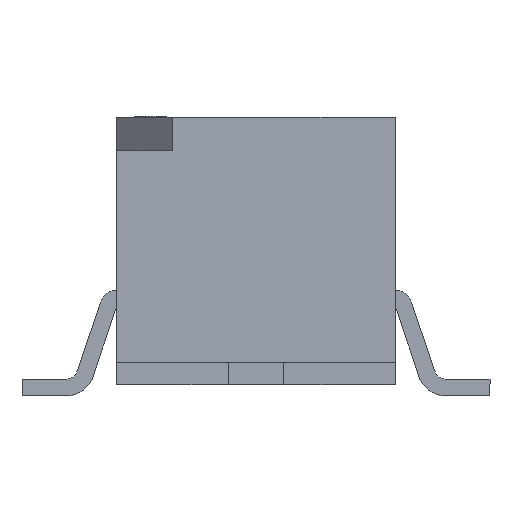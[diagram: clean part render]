
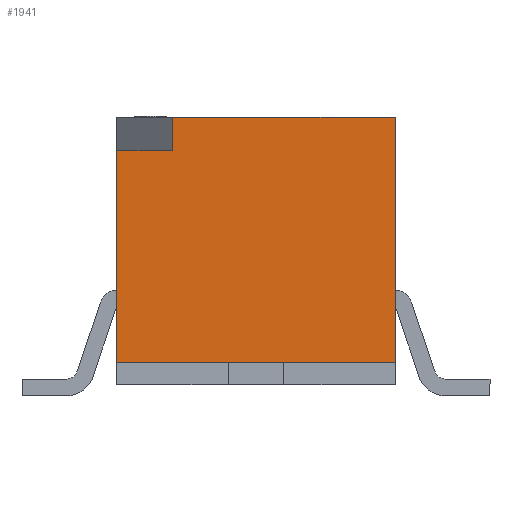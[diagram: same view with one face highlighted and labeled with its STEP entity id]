
A CAD part, left-side view. The second image highlights one B-rep face of the part: STEP entity #1941.
In plain terms, the highlighted planar face has unit normal (-1, 0, 0).
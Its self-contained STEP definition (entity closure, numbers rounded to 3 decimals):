
#737 = ORIENTED_EDGE ( 'NONE', *, *, #10639, .F. ) ;
#748 = CARTESIAN_POINT ( 'NONE',  ( -2.7, 1.25, -0.3 ) ) ;
#1531 = LINE ( 'NONE', #6113, #5490 ) ;
#1567 = ORIENTED_EDGE ( 'NONE', *, *, #13027, .T. ) ;
#1588 = VERTEX_POINT ( 'NONE', #4310 ) ;
#1724 = CARTESIAN_POINT ( 'NONE',  ( -2.7, -1.25, -2.2 ) ) ;
#1858 = CARTESIAN_POINT ( 'NONE',  ( -2.7, 0.75, 0. ) ) ;
#1941 = ADVANCED_FACE ( 'NONE', ( #7386 ), #10708, .F. ) ;
#2170 = LINE ( 'NONE', #5543, #11736 ) ;
#2655 = DIRECTION ( 'NONE',  ( 0., 0., 1. ) ) ;
#3879 = LINE ( 'NONE', #1724, #13299 ) ;
#3885 = LINE ( 'NONE', #6464, #13551 ) ;
#4310 = CARTESIAN_POINT ( 'NONE',  ( -2.7, 0.75, -0.3 ) ) ;
#4611 = DIRECTION ( 'NONE',  ( 0., 0., -1. ) ) ;
#5197 = CARTESIAN_POINT ( 'NONE',  ( -2.7, -1.25, 0. ) ) ;
#5335 = DIRECTION ( 'NONE',  ( 0., 0., -1. ) ) ;
#5490 = VECTOR ( 'NONE', #6268, 1000. ) ;
#5543 = CARTESIAN_POINT ( 'NONE',  ( -2.7, 0.75, 0.3 ) ) ;
#5716 = CARTESIAN_POINT ( 'NONE',  ( -2.7, 1.25, -2.2 ) ) ;
#6113 = CARTESIAN_POINT ( 'NONE',  ( -2.7, 1.25, 0. ) ) ;
#6268 = DIRECTION ( 'NONE',  ( 0., 0., -1. ) ) ;
#6433 = EDGE_CURVE ( 'NONE', #12640, #6969, #3879, .T. ) ;
#6464 = CARTESIAN_POINT ( 'NONE',  ( -2.7, -1.25, 0. ) ) ;
#6573 = CARTESIAN_POINT ( 'NONE',  ( -2.7, -1.25, -2.2 ) ) ;
#6639 = VERTEX_POINT ( 'NONE', #10131 ) ;
#6969 = VERTEX_POINT ( 'NONE', #6573 ) ;
#7175 = ORIENTED_EDGE ( 'NONE', *, *, #14808, .T. ) ;
#7386 = FACE_OUTER_BOUND ( 'NONE', #13686, .T. ) ;
#7829 = LINE ( 'NONE', #12260, #11018 ) ;
#8186 = VECTOR ( 'NONE', #8703, 1000. ) ;
#8703 = DIRECTION ( 'NONE',  ( 0., -1., 0. ) ) ;
#9505 = VERTEX_POINT ( 'NONE', #14105 ) ;
#9718 = ORIENTED_EDGE ( 'NONE', *, *, #6433, .T. ) ;
#10131 = CARTESIAN_POINT ( 'NONE',  ( -2.7, -1.25, 0. ) ) ;
#10639 = EDGE_CURVE ( 'NONE', #6639, #6969, #7829, .T. ) ;
#10708 = PLANE ( 'NONE',  #12496 ) ;
#10832 = LINE ( 'NONE', #748, #8186 ) ;
#10940 = ORIENTED_EDGE ( 'NONE', *, *, #11077, .T. ) ;
#11018 = VECTOR ( 'NONE', #5335, 1000. ) ;
#11077 = EDGE_CURVE ( 'NONE', #11222, #1588, #2170, .T. ) ;
#11222 = VERTEX_POINT ( 'NONE', #1858 ) ;
#11736 = VECTOR ( 'NONE', #4611, 1000. ) ;
#12260 = CARTESIAN_POINT ( 'NONE',  ( -2.7, -1.25, 0. ) ) ;
#12496 = AXIS2_PLACEMENT_3D ( 'NONE', #5197, #12957, #2655 ) ;
#12640 = VERTEX_POINT ( 'NONE', #5716 ) ;
#12957 = DIRECTION ( 'NONE',  ( 1., 0., 0. ) ) ;
#13027 = EDGE_CURVE ( 'NONE', #6639, #11222, #3885, .T. ) ;
#13149 = DIRECTION ( 'NONE',  ( 0., -1., 0. ) ) ;
#13299 = VECTOR ( 'NONE', #13149, 1000. ) ;
#13551 = VECTOR ( 'NONE', #14311, 1000. ) ;
#13686 = EDGE_LOOP ( 'NONE', ( #7175, #9718, #737, #1567, #10940, #13827 ) ) ;
#13827 = ORIENTED_EDGE ( 'NONE', *, *, #14245, .F. ) ;
#14105 = CARTESIAN_POINT ( 'NONE',  ( -2.7, 1.25, -0.3 ) ) ;
#14245 = EDGE_CURVE ( 'NONE', #9505, #1588, #10832, .T. ) ;
#14311 = DIRECTION ( 'NONE',  ( 0., 1., 0. ) ) ;
#14808 = EDGE_CURVE ( 'NONE', #9505, #12640, #1531, .T. ) ;
